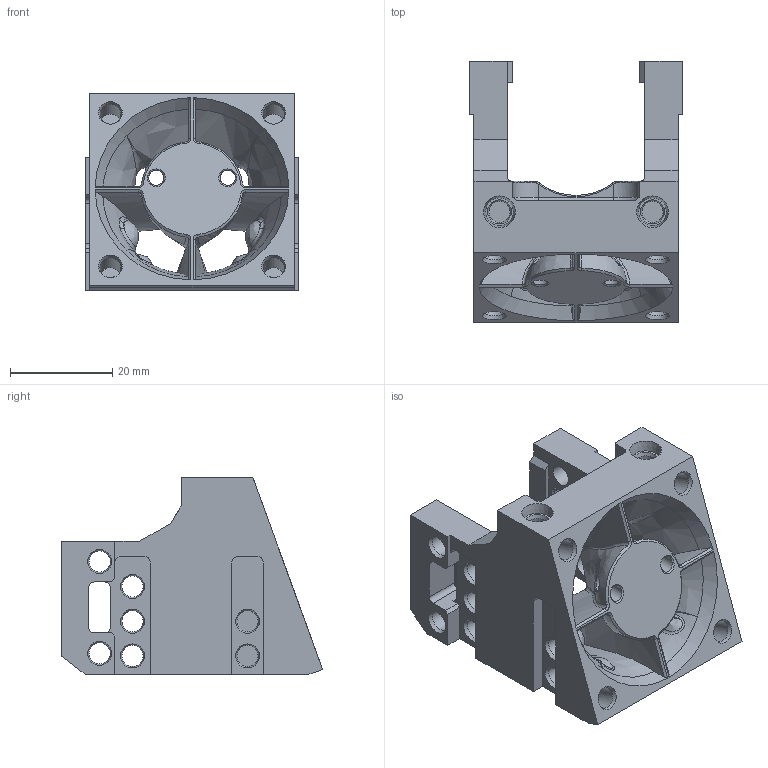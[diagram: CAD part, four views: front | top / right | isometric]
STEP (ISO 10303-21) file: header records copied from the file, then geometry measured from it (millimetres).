
FILE_DESCRIPTION(/* description */ (''),/* implementation_level */ '2;1');
FILE_NAME(/* name */ '/Users/andy/Desktop/Hero Me Gen7 Base Inserts v55.step',/* time_stamp */ '2022-10-23T08:50:39-07:00',/* author */ (''),/* organization */ (''),/* preprocessor_version */ 'ST-DEVELOPER v19',/* originating_system */ 'Autodesk Translation Framework v11.7.0.108',/* authorisation */ '');
FILE_SCHEMA (('AUTOMOTIVE_DESIGN { 1 0 10303 214 3 1 1 }'));
Length unit declared in the file: millimetre
Products named in the file (3): GEN_7_1.5; Shroud_ME_1.5; INSERT_VERSION
Assembly tree (2 placements, depth 3):
  GEN_7_1.5
    Shroud_ME_1.5
      INSERT_VERSION
Bounding box: 41.64 x 51.21 x 38.53 mm (x, y, z)
Volume: 24715 mm3; surface area: 14459.9 mm2
Topology: 1 solids, 7 shells, 378 faces, 973 edges, 617 vertices
Faces by surface type: bspline 160, plane 109, cylinder 62, cone 42, torus 4, sphere 1
Full cylindrical faces by diameter (mm): 3 x2, 4.15 x26
Entity records: 17091 total; most frequent: CARTESIAN_POINT 8872, ORIENTED_EDGE 1938, DIRECTION 1223, EDGE_CURVE 969, VERTEX_POINT 617, LINE 433, VECTOR 433, EDGE_LOOP 426
